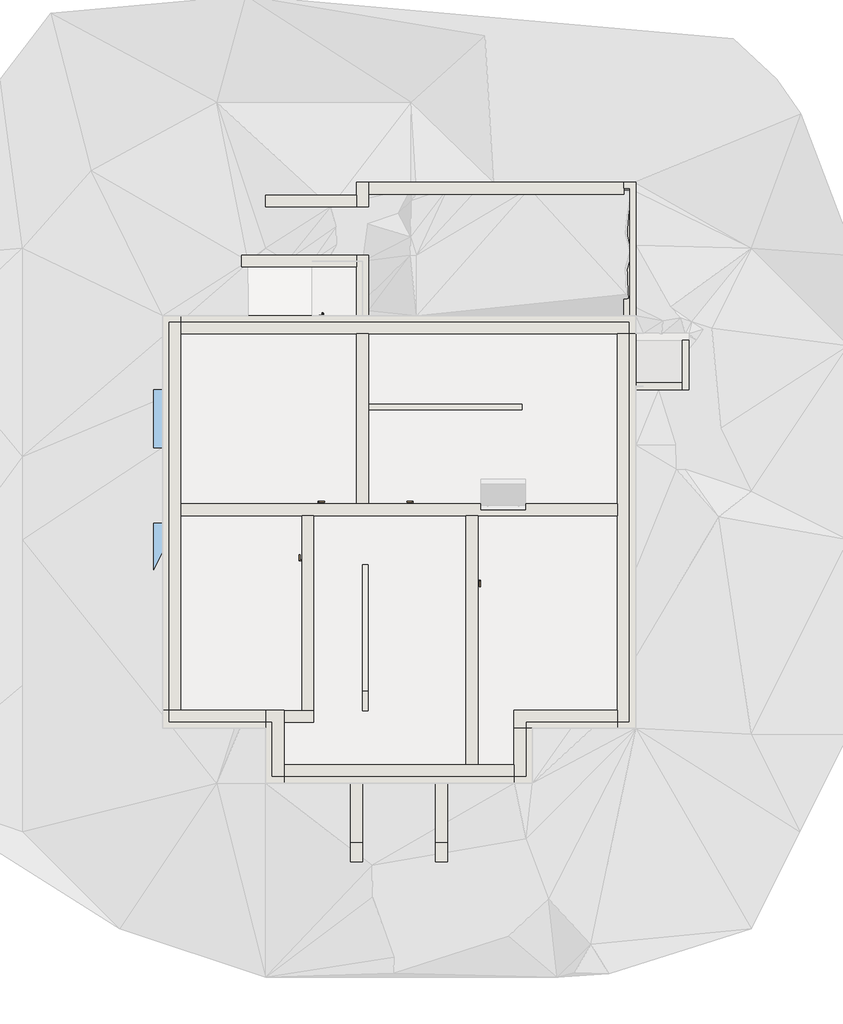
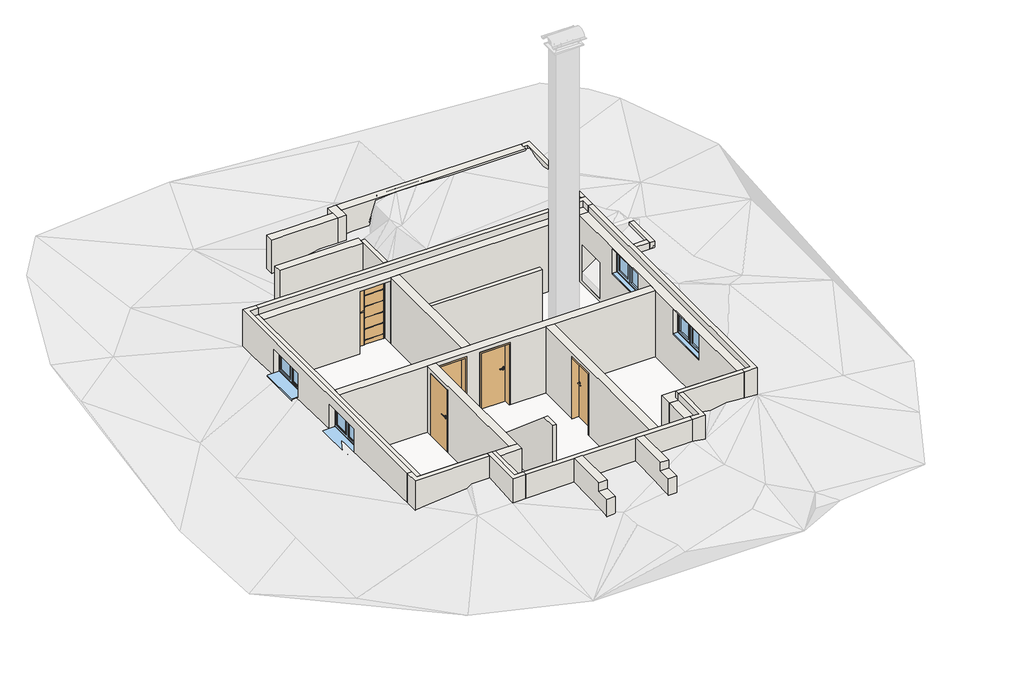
# Not in any storey, part 1 of 2: 25 walls, 5 doors, 4 windows.
"""IFC4 building model written with IfcOpenShell, lengths in millimetres."""

from ifc_helpers import new_model, si_unit, frame, origin, place, context, project, spatial, polyline, outline, extrude, faceted_brep, transform, mapped, element, save
from components import door_1b2f5746, door_21564633, ml_885_x_1885_5f7d4f0f, fe_2_tlg_konfigurierbar_1260_x_760_5a7c37b6

model = new_model("IFC4")

# Units and contexts
model_context = context("Model", 3, world=origin())
ifc_project = project(units=[si_unit("LENGTHUNIT", "METRE", prefix="MILLI")], contexts=[model_context])

# Site, building
site = spatial("IfcSite", under=ifc_project)
building = spatial("IfcBuilding", under=site)

# Doors
placement = place(None, origin())
door_shape = door_1b2f5746(model_context)
element("IfcDoor", 1, ObjectType="TU DF 1 - Rahmenstock flächenbündig variabel : ML - H - 885 x 1885", at=placement, inside=building, context=model_context, shape_type="MappedRepresentation", body=[
    mapped(door_shape, transform((2682.5, 5620.0, -1200.0), x_axis=(-1.0, 0.0, 0.0), y_axis=(0.0, -1.0, 0.0), z_axis=(0.0, 0.0, 1.0))),
])
door_2_shape = door_21564633(model_context)
element("IfcDoor", 2, ObjectType="TU DF 1 - Rahmenstock flächenbündig variabel : ML - H - 885 x 1885", at=placement, inside=building, context=model_context, shape_type="MappedRepresentation", body=[
    mapped(door_2_shape, transform((4245.0, 3817.5, -1200.0), x_axis=(0.0, -1.0, 0.0), y_axis=(1.0, 0.0, 0.0), z_axis=(0.0, 0.0, 1.0))),
])
element("IfcDoor", 3, ObjectType="TU DF 1 - Rahmenstock flächenbündig variabel : ML - H - 885 x 1885", at=placement, inside=building, context=model_context, shape_type="MappedRepresentation", body=[
    mapped(door_2_shape, transform((870.0, 4922.5, -1200.0), x_axis=(0.0, 1.0, 0.0), y_axis=(-1.0, 0.0, 0.0), z_axis=(0.0, 0.0, 1.0))),
])
element("IfcDoor", 4, ObjectType="TU DF 1 - Rahmenstock flächenbündig variabel : ML - H - 885 x 1885", at=placement, inside=building, context=model_context, shape_type="MappedRepresentation", body=[
    mapped(door_2_shape, transform((1432.5, 5620.0, -1200.0), x_axis=(1.0, 0.0, 0.0), y_axis=(0.0, 1.0, 0.0), z_axis=(0.0, 0.0, 1.0))),
])
ml_885_x_1885_shape = ml_885_x_1885_5f7d4f0f(model_context)
element("IfcDoor", 5, ObjectType="TU DF 1 - Haustüre : ML - 885 x 1885", at=placement, inside=building, context=model_context, shape_type="MappedRepresentation", body=[
    mapped(ml_885_x_1885_shape, transform((1432.5, 9427.5, -1200.0), x_axis=(-1.0, 0.0, 0.0), y_axis=(0.0, -1.0, 0.0), z_axis=(0.0, 0.0, 1.0))),
])

# Walls
element("IfcWall", 6, ObjectType="Klinker 365", at=placement, inside=building, context=model_context, shape_type="Brep", body=[
    faceted_brep([(375.0, 0.0, -1200.0), (375.0, 375.0, -1200.0), (375.0, 1250.0, -1200.0), (375.0, 1490.0, -1200.0), (375.0, 1500.0, -1200.0), (375.0, 1500.0, 800.0), (375.0, 1490.0, 800.0), (375.0, 1250.0, 800.0), (375.0, 375.0, 800.0), (375.0, 125.0, 800.0), (375.0, 125.0, 1000.0), (375.0, 0.0, 1000.0), (0.0, 1500.0, -1200.0), (0.0, 1125.0, -1200.0), (0.0, 0.0, -1200.0), (0.0, 0.0, 1000.0), (0.0, 1125.0, 1000.0), (0.0, 1250.0, 1000.0), (0.0, 1250.0, 800.0), (0.0, 1500.0, 800.0), (125.0, 125.0, 1000.0), (125.0, 1250.0, 1000.0), (125.0, 1250.0, 800.0), (125.0, 125.0, 800.0)], [[[0, 1, 2, 3, 4, 5, 6, 7, 8, 9, 10, 11]], [[12, 13, 14, 15, 16, 17, 18, 19]], [[4, 3, 2, 1, 0, 14, 13, 12]], [[15, 11, 10, 20, 21, 17, 16]], [[0, 11, 15, 14]], [[4, 12, 19, 5]], [[22, 23, 9, 8, 7, 6, 5, 19, 18]], [[23, 20, 10, 9]], [[23, 22, 21, 20]], [[21, 22, 18, 17]]]),
])
element("IfcWall", 7, ObjectType="Klinker 365", at=placement, inside=building, context=model_context, shape_type="Brep", body=[
    faceted_brep([(0.0, 1500.0, -1200.0), (-1750.0, 1500.0, -1200.0), (-2125.0, 1500.0, -1200.0), (-2125.0, 1500.0, 1000.0), (-2000.0, 1500.0, 1000.0), (-2000.0, 1500.0, 800.0), (-1750.0, 1500.0, 800.0), (0.0, 1500.0, 800.0), (-2125.0, 1125.0, -1200.0), (0.0, 1125.0, -1200.0), (0.0, 1125.0, 1000.0), (-2125.0, 1125.0, 1000.0), (0.0, 1250.0, 1000.0), (-2000.0, 1250.0, 1000.0), (0.0, 1250.0, 800.0), (-2000.0, 1250.0, 800.0)], [[[0, 1, 2, 3, 4, 5, 6, 7]], [[8, 9, 10, 11]], [[2, 1, 0, 9, 8]], [[11, 10, 12, 13, 4, 3]], [[3, 2, 8, 11]], [[9, 0, 7, 14, 12, 10]], [[5, 15, 14, 7, 6]], [[15, 13, 12, 14]], [[13, 15, 5, 4]]]),
])
element("IfcWall", 8, ObjectType="Klinker 365", at=placement, inside=building, context=model_context, shape_type="Brep", body=[
    faceted_brep([(-1750.0, 1500.0, -1200.0), (-1750.0, 5500.0, -1200.0), (-1750.0, 5740.0, -1200.0), (-1750.0, 9240.0, -1200.0), (-1750.0, 9615.0, -1200.0), (-1750.0, 9615.0, 1000.0), (-1750.0, 9490.0, 1000.0), (-1750.0, 9490.0, 800.0), (-1750.0, 5740.0, 800.0), (-1750.0, 5500.0, 800.0), (-1750.0, 1500.0, 800.0), (-1750.0, 4115.0, 760.0), (-1750.0, 5375.0, 760.0), (-1750.0, 5375.0, 0.0), (-1750.0, 4115.0, 0.0), (-1750.0, 6865.0, 760.0), (-1750.0, 8125.0, 760.0), (-1750.0, 8125.0, 0.0), (-1750.0, 6865.0, 0.0), (-2125.0, 9615.0, -1200.0), (-2125.0, 1500.0, -1200.0), (-2125.0, 1500.0, 1000.0), (-2125.0, 9615.0, 1000.0), (-2125.0, 5345.0, 15.0), (-2125.0, 5345.0, 730.0), (-2125.0, 4145.0, 730.0), (-2125.0, 4145.0, 15.0), (-2125.0, 8095.0, 15.0), (-2125.0, 8095.0, 730.0), (-2125.0, 6895.0, 730.0), (-2125.0, 6895.0, 15.0), (-2000.0, 1500.0, 1000.0), (-2000.0, 9490.0, 1000.0), (-2000.0, 1500.0, 800.0), (-1965.0, 4115.0, 760.0), (-1965.0, 5375.0, 760.0), (-1965.0, 4115.0, 0.0), (-1965.0, 5375.0, 0.0), (-1965.0, 5345.0, 730.0), (-1965.0, 5345.0, 20.0), (-1965.0, 4145.0, 20.0), (-1965.0, 4145.0, 730.0), (-2000.0, 9490.0, 800.0), (-1965.0, 8125.0, 760.0), (-1965.0, 6865.0, 760.0), (-1965.0, 6865.0, 0.0), (-1965.0, 8125.0, 0.0), (-1965.0, 8095.0, 730.0), (-1965.0, 8095.0, 20.0), (-1965.0, 6895.0, 20.0), (-1965.0, 6895.0, 730.0)], [[[0, 1, 2, 3, 4, 5, 6, 7, 8, 9, 10], [11, 12, 13, 14], [15, 16, 17, 18]], [[19, 20, 21, 22], [23, 24, 25, 26], [27, 28, 29, 30]], [[4, 3, 2, 1, 0, 20, 19]], [[22, 21, 31, 32, 6, 5]], [[21, 20, 0, 10, 33, 31]], [[5, 4, 19, 22]], [[34, 35, 12, 11]], [[36, 14, 13, 37]], [[34, 11, 14, 36]], [[12, 35, 37, 13]], [[35, 34, 36, 37], [38, 39, 40, 41]], [[39, 38, 24, 23]], [[40, 39, 23, 26]], [[41, 40, 26, 25]], [[38, 41, 25, 24]], [[42, 33, 10, 9, 8, 7]], [[32, 42, 7, 6]], [[42, 32, 31, 33]], [[43, 16, 15, 44]], [[45, 18, 17, 46]], [[44, 15, 18, 45]], [[16, 43, 46, 17]], [[43, 44, 45, 46], [47, 48, 49, 50]], [[48, 47, 28, 27]], [[49, 48, 27, 30]], [[50, 49, 30, 29]], [[47, 50, 29, 28]]]),
])
element("IfcWall", 9, ObjectType="Klinker 365", at=placement, inside=building, context=model_context, shape_type="Brep", body=[
    faceted_brep([(-1750.0, 9240.0, -1200.0), (990.0, 9240.0, -1200.0), (990.0, 9240.0, 685.0), (1875.0, 9240.0, 685.0), (1875.0, 9240.0, -1200.0), (2115.0, 9240.0, -1200.0), (7240.0, 9240.0, -1200.0), (7615.0, 9240.0, -1200.0), (7615.0, 9240.0, 1000.0), (7490.0, 9240.0, 1000.0), (7490.0, 9240.0, 800.0), (2115.0, 9240.0, 800.0), (1875.0, 9240.0, 800.0), (-1750.0, 9240.0, 800.0), (-1750.0, 9615.0, 1000.0), (7615.0, 9615.0, 1000.0), (7615.0, 9615.0, -1200.0), (1875.0, 9615.0, -1200.0), (1875.0, 9615.0, 685.0), (990.0, 9615.0, 685.0), (990.0, 9615.0, -1200.0), (-1750.0, 9615.0, -1200.0), (-1750.0, 9490.0, 1000.0), (7490.0, 9490.0, 1000.0), (-1750.0, 9490.0, 800.0), (7490.0, 9490.0, 800.0)], [[[0, 1, 2, 3, 4, 5, 6, 7, 8, 9, 10, 11, 12, 13]], [[14, 15, 16, 17, 18, 19, 20, 21]], [[0, 21, 20, 1]], [[16, 7, 6, 5, 4, 17]], [[15, 14, 22, 23, 9, 8]], [[14, 21, 0, 13, 24, 22]], [[10, 25, 24, 13, 12, 11]], [[25, 23, 22, 24]], [[23, 25, 10, 9]], [[18, 3, 2, 19]], [[19, 2, 1, 20]], [[3, 18, 17, 4]], [[7, 16, 15, 8]]]),
])
element("IfcWall", 10, ObjectType="Klinker 365", at=placement, inside=building, context=model_context, shape_type="Brep", body=[
    faceted_brep([(7240.0, 9240.0, -1200.0), (7240.0, 5740.0, -1200.0), (7240.0, 5500.0, -1200.0), (7240.0, 1500.0, -1200.0), (7240.0, 1125.0, -1200.0), (7240.0, 1125.0, 1000.0), (7240.0, 1250.0, 1000.0), (7240.0, 1250.0, 800.0), (7240.0, 1500.0, 800.0), (7240.0, 5500.0, 800.0), (7240.0, 5740.0, 800.0), (7240.0, 9240.0, 800.0), (7240.0, 4625.0, 760.0), (7240.0, 3365.0, 760.0), (7240.0, 3365.0, 0.0), (7240.0, 4625.0, 0.0), (7240.0, 7625.0, 760.0), (7240.0, 6365.0, 760.0), (7240.0, 6365.0, 0.0), (7240.0, 7625.0, 0.0), (7240.0, 9109.0, -1095.4701192), (7240.0, 9109.0, -850.0), (7240.0, 9109.0, -20.0), (7240.0, 8231.2341615, -20.0), (7240.0, 8231.2341615, -850.0), (7240.0, 8231.2341615, -1095.4701192), (7615.0, 1125.0, -1200.0), (7615.0, 9240.0, -1200.0), (7615.0, 9240.0, 1000.0), (7615.0, 1125.0, 1000.0), (7615.0, 3395.0, 15.0), (7615.0, 3395.0, 730.0), (7615.0, 4595.0, 730.0), (7615.0, 4595.0, 15.0), (7615.0, 6395.0, 15.0), (7615.0, 6395.0, 730.0), (7615.0, 7595.0, 730.0), (7615.0, 7595.0, 15.0), (7615.0, 9109.0, -20.0), (7615.0, 9109.0, -900.0), (7615.0, 8231.2341615, -900.0), (7615.0, 8231.2341615, -20.0), (7455.0, 4625.0, 760.0), (7455.0, 3365.0, 760.0), (7455.0, 4625.0, 0.0), (7455.0, 3365.0, 0.0), (7455.0, 3395.0, 730.0), (7455.0, 3395.0, 20.0), (7455.0, 4595.0, 20.0), (7455.0, 4595.0, 730.0), (7490.0, 1250.0, 800.0), (7490.0, 9240.0, 800.0), (7490.0, 1250.0, 1000.0), (7490.0, 9240.0, 1000.0), (7455.0, 6365.0, 760.0), (7455.0, 7625.0, 760.0), (7455.0, 7625.0, 0.0), (7455.0, 6365.0, 0.0), (7455.0, 6395.0, 730.0), (7455.0, 6395.0, 20.0), (7455.0, 7595.0, 20.0), (7455.0, 7595.0, 730.0), (7514.6869569, 9109.0, -900.0), (7514.6869569, 8231.2341615, -900.0)], [[[0, 1, 2, 3, 4, 5, 6, 7, 8, 9, 10, 11], [12, 13, 14, 15], [16, 17, 18, 19], [20, 21, 22, 23, 24, 25]], [[26, 27, 28, 29], [30, 31, 32, 33], [34, 35, 36, 37], [38, 39, 40, 41]], [[5, 4, 26, 29]], [[42, 43, 13, 12]], [[44, 15, 14, 45]], [[42, 12, 15, 44]], [[13, 43, 45, 14]], [[43, 42, 44, 45], [46, 47, 48, 49]], [[47, 46, 31, 30]], [[48, 47, 30, 33]], [[49, 48, 33, 32]], [[46, 49, 32, 31]], [[7, 50, 51, 11, 10, 9, 8]], [[50, 52, 53, 51]], [[52, 50, 7, 6]], [[54, 17, 16, 55]], [[56, 19, 18, 57]], [[55, 16, 19, 56]], [[17, 54, 57, 18]], [[54, 55, 56, 57], [58, 59, 60, 61]], [[59, 58, 35, 34]], [[60, 59, 34, 37]], [[61, 60, 37, 36]], [[58, 61, 36, 35]], [[4, 3, 2, 1, 0, 27, 26]], [[29, 28, 53, 52, 6, 5]], [[27, 0, 11, 51, 53, 28]], [[40, 39, 62, 63]], [[38, 22, 21, 20, 62, 39]], [[22, 38, 41, 23]], [[23, 41, 40, 63, 25, 24]], [[62, 20, 25, 63]]]),
])
element("IfcWall", 11, ObjectType="Klinker 365", at=placement, inside=building, context=model_context, shape_type="Brep", body=[
    faceted_brep([(7240.0, 1500.0, -1200.0), (5115.0, 1500.0, -1200.0), (5115.0, 1500.0, 800.0), (7240.0, 1500.0, 800.0), (5115.0, 1125.0, -1200.0), (5490.0, 1125.0, -1200.0), (7240.0, 1125.0, -1200.0), (7240.0, 1125.0, 1000.0), (5490.0, 1125.0, 1000.0), (5365.0, 1125.0, 1000.0), (5365.0, 1125.0, 800.0), (5115.0, 1125.0, 800.0), (7240.0, 1250.0, 1000.0), (5365.0, 1250.0, 1000.0), (7240.0, 1250.0, 800.0), (5365.0, 1250.0, 800.0)], [[[0, 1, 2, 3]], [[4, 5, 6, 7, 8, 9, 10, 11]], [[1, 0, 6, 5, 4]], [[9, 8, 7, 12, 13]], [[7, 6, 0, 3, 14, 12]], [[1, 4, 11, 2]], [[10, 15, 14, 3, 2, 11]], [[15, 13, 12, 14]], [[13, 15, 10, 9]]]),
])
element("IfcWall", 12, ObjectType="Klinker 365", at=placement, inside=building, context=model_context, shape_type="Brep", body=[
    faceted_brep([(5115.0, 1125.0, -1200.0), (5115.0, 375.0, -1200.0), (5115.0, 0.0, -1200.0), (5115.0, 0.0, 1000.0), (5115.0, 125.0, 1000.0), (5115.0, 125.0, 800.0), (5115.0, 375.0, 800.0), (5115.0, 1125.0, 800.0), (5490.0, 0.0, -1200.0), (5490.0, 1125.0, -1200.0), (5490.0, 1125.0, 1000.0), (5490.0, 0.0, 1000.0), (5365.0, 1125.0, 1000.0), (5365.0, 125.0, 1000.0), (5365.0, 1125.0, 800.0), (5365.0, 125.0, 800.0)], [[[0, 1, 2, 3, 4, 5, 6, 7]], [[8, 9, 10, 11]], [[2, 1, 0, 9, 8]], [[11, 10, 12, 13, 4, 3]], [[10, 9, 0, 7, 14, 12]], [[3, 2, 8, 11]], [[5, 15, 14, 7, 6]], [[15, 13, 12, 14]], [[13, 15, 5, 4]]]),
])
element("IfcWall", 13, ObjectType="Klinker 365", at=placement, inside=building, context=model_context, shape_type="SweptSolid", body=[
    extrude(outline(polyline([(375.0, -1200.0), (0.0, -1200.0), (0.0, 1000.0), (125.0, 1000.0), (125.0, 800.0), (375.0, 800.0), (375.0, -1200.0)])), frame((375.0, 0.0, 0.0), z_axis=(1.0, 0.0, 0.0), x_axis=(0.0, 1.0, 0.0)), (0.0, 0.0, 1.0), 4740.0),
])
element("IfcWall", 14, ObjectType="Klinker 240", at=placement, inside=building, context=model_context, shape_type="Brep", body=[
    faceted_brep([(7615.0, 9615.0, -1200.0), (7615.0, 12355.0, -1200.0), (7615.0, 12355.0, 1000.0), (7615.0, 9775.0, 1000.0), (7615.0, 9615.0, 1000.0), (7375.0, 12355.0, -1200.0), (7375.0, 12115.0, -1200.0), (7375.0, 9615.0, -1200.0), (7375.0, 9615.0, 800.0), (7375.0, 12235.0, 800.0), (7375.0, 12235.0, 1000.0), (7375.0, 12355.0, 1000.0), (7495.0, 12235.0, 1000.0), (7495.0, 9615.0, 1000.0), (7495.0, 9615.0, 800.0), (7495.0, 12235.0, 800.0)], [[[0, 1, 2, 3, 4]], [[5, 6, 7, 8, 9, 10, 11]], [[1, 0, 7, 6, 5]], [[4, 3, 2, 11, 10, 12, 13]], [[2, 1, 5, 11]], [[7, 0, 4, 13, 14, 8]], [[14, 15, 9, 8]], [[15, 12, 10, 9]], [[15, 14, 13, 12]]]),
])
element("IfcWall", 15, ObjectType="Klinker 240", at=placement, inside=building, context=model_context, shape_type="SweptSolid", body=[
    extrude(outline(polyline([(2115.0, 12355.0), (7375.0, 12355.0), (7375.0, 12115.0), (2115.0, 12115.0), (2115.0, 12355.0)])), frame((0.0, 0.0, -1200.0), z_axis=(0.0, 0.0, 1.0), x_axis=(1.0, 0.0, 0.0)), (0.0, 0.0, 1.0), 2200.0),
])
element("IfcWall", 16, ObjectType="Klinker 240", at=placement, inside=building, context=model_context, shape_type="Brep", body=[
    faceted_brep([(2115.0, 9615.0, -1200.0), (2115.0, 10855.0, -1200.0), (2115.0, 10855.0, 800.0), (2115.0, 9615.0, 800.0), (1875.0, 10855.0, -1200.0), (1875.0, 10615.0, -1200.0), (1875.0, 9615.0, -1200.0), (1875.0, 9615.0, 1000.0), (1875.0, 10615.0, 1000.0), (1875.0, 10735.0, 1000.0), (1875.0, 10735.0, 800.0), (1875.0, 10855.0, 800.0), (1995.0, 9615.0, 1000.0), (1995.0, 10735.0, 1000.0), (1995.0, 9615.0, 800.0), (1995.0, 10735.0, 800.0)], [[[0, 1, 2, 3]], [[4, 5, 6, 7, 8, 9, 10, 11]], [[1, 0, 6, 5, 4]], [[9, 8, 7, 12, 13]], [[7, 6, 0, 3, 14, 12]], [[1, 4, 11, 2]], [[15, 14, 3, 2, 11, 10]], [[14, 15, 13, 12]], [[13, 15, 10, 9]]]),
])
element("IfcWall", 17, ObjectType="Klinker 240", at=placement, inside=building, context=model_context, shape_type="Brep", body=[
    faceted_brep([(1875.0, 10855.0, -1200.0), (-500.0, 10855.0, -1200.0), (-500.0, 10855.0, 1000.0), (615.0, 10855.0, 1000.0), (1875.0, 10855.0, 1000.0), (1875.0, 10855.0, 800.0), (1875.0, 10615.0, -1200.0), (1875.0, 10615.0, 1000.0), (615.0, 10615.0, 1000.0), (-500.0, 10615.0, 1000.0), (-500.0, 10615.0, -1200.0), (1875.0, 10735.0, 1000.0)], [[[0, 1, 2, 3, 4, 5]], [[6, 7, 8, 9, 10]], [[1, 0, 6, 10]], [[2, 1, 10, 9]], [[4, 3, 2, 9, 8, 7, 11]], [[0, 5, 4, 11, 7, 6]]]),
])
element("IfcWall", 18, ObjectType="Klinker 240", at=placement, inside=building, context=model_context, shape_type="Brep", body=[
    faceted_brep([(1875.0, 12355.0, -1200.0), (1875.0, 12095.0, -1200.0), (1875.0, 11855.0, -1200.0), (1875.0, 11855.0, 1000.0), (1875.0, 12095.0, 1000.0), (1875.0, 12355.0, 1000.0), (2115.0, 12355.0, -1200.0), (2115.0, 12355.0, 1000.0), (2115.0, 12115.0, 1000.0), (2115.0, 11855.0, 1000.0), (2115.0, 11855.0, -1200.0), (2115.0, 12115.0, -1200.0)], [[[0, 1, 2, 3, 4, 5]], [[6, 7, 8, 9, 10, 11]], [[2, 1, 0, 6, 11, 10]], [[5, 4, 3, 9, 8, 7]], [[0, 5, 7, 6]], [[3, 2, 10, 9]]]),
])
element("IfcWall", 19, ObjectType="Klinker 240", at=placement, inside=building, context=model_context, shape_type="Brep", body=[
    faceted_brep([(1875.0, 12095.0, -1200.0), (-5.0, 12095.0, -1200.0), (-5.0, 12095.0, 1000.0), (615.0, 12095.0, 1000.0), (1875.0, 12095.0, 1000.0), (-5.0, 11855.0, -1200.0), (1875.0, 11855.0, -1200.0), (1875.0, 11855.0, 800.0), (1875.0, 11855.0, 1000.0), (1620.0, 11855.0, 1000.0), (615.0, 11855.0, 1000.0), (-5.0, 11855.0, 1000.0)], [[[0, 1, 2, 3, 4]], [[5, 6, 7, 8, 9, 10, 11]], [[0, 4, 8, 7, 6]], [[1, 0, 6, 5]], [[2, 1, 5, 11]], [[4, 3, 2, 11, 10, 9, 8]]]),
])
element("IfcWall", 20, ObjectType="Klinker 240", at=placement, inside=building, context=model_context, shape_type="SweptSolid", body=[
    extrude(outline(polyline([(0.0, -500.0), (-1620.0, -500.0), (-1620.0, 750.0), (-1220.0, 750.0), (-1220.0, 1000.0), (0.0, 1000.0), (0.0, -500.0)])), frame((1750.0, 0.0, 0.0), z_axis=(1.0, 0.0, 0.0), x_axis=(0.0, 1.0, 0.0)), (0.0, 0.0, 1.0), 240.0),
])
element("IfcWall", 21, ObjectType="Klinker 240", at=placement, inside=building, context=model_context, shape_type="SweptSolid", body=[
    extrude(outline(polyline([(0.0, -500.0), (-1620.0, -500.0), (-1620.0, 750.0), (-1220.0, 750.0), (-1220.0, 1000.0), (0.0, 1000.0), (0.0, -500.0)])), frame((3500.0, 0.0, 0.0), z_axis=(1.0, 0.0, 0.0), x_axis=(0.0, 1.0, 0.0)), (0.0, 0.0, 1.0), 240.0),
])
element("IfcWall", 22, ObjectType="Klinker 140", at=placement, inside=building, context=model_context, shape_type="Brep", body=[
    faceted_brep([(8575.0, 9110.0, -1200.0), (8575.0, 8231.2341615, -1200.0), (8575.0, 8091.2341615, -1200.0), (8575.0, 8091.2341615, 200.0), (8575.0, 8231.2341615, 200.0), (8575.0, 9110.0, 200.0), (8715.0, 9110.0, -1200.0), (8715.0, 9110.0, 200.0), (8715.0, 8091.2341615, 200.0), (8715.0, 8091.2341615, -1200.0)], [[[0, 1, 2, 3, 4, 5]], [[6, 7, 8, 9]], [[2, 1, 0, 6, 9]], [[5, 4, 3, 8, 7]], [[0, 5, 7, 6]], [[3, 2, 9, 8]]]),
])
element("IfcWall", 23, ObjectType="Klinker 140", at=placement, inside=building, context=model_context, shape_type="SweptSolid", body=[
    extrude(outline(polyline([(7615.0, 8231.2341615), (8575.0, 8231.2341615), (8575.0, 8091.2341615), (7615.0, 8091.2341615), (7615.0, 8231.2341615)])), frame((0.0, 0.0, -1200.0), z_axis=(0.0, 0.0, 1.0), x_axis=(1.0, 0.0, 0.0)), (0.0, 0.0, 1.0), 1400.0),
])
element("IfcWall", 24, ObjectType="Ziegel 115", at=placement, inside=building, context=model_context, shape_type="SweptSolid", body=[
    extrude(outline(polyline([(4490.0, -1200.0), (1490.0, -1200.0), (1490.0, 1000.0), (1901.7647059, 1000.0), (4490.0, -1200.0)])), frame((1990.0, 0.0, 0.0), z_axis=(1.0, 0.0, 0.0), x_axis=(0.0, 1.0, 0.0)), (0.0, 0.0, 1.0), 115.0),
])
element("IfcWall", 25, ObjectType="Ziegel 115", at=placement, inside=building, context=model_context, shape_type="SweptSolid", body=[
    extrude(outline(polyline([(5275.0, 7676.2341615), (2115.0, 7676.2341615), (2115.0, 7791.2341615), (5275.0, 7791.2341615), (5275.0, 7676.2341615)])), frame((0.0, 0.0, -1200.0), z_axis=(0.0, 0.0, 1.0), x_axis=(1.0, 0.0, 0.0)), (0.0, 0.0, 1.0), 2000.0),
])
element("IfcWall", 26, ObjectType="Ziegel 240", at=placement, inside=building, context=model_context, shape_type="Brep", body=[
    faceted_brep([(-1750.0, 5500.0, 800.0), (-1750.0, 5500.0, -1200.0), (750.0, 5500.0, -1200.0), (990.0, 5500.0, -1200.0), (990.0, 5500.0, 685.0), (1875.0, 5500.0, 685.0), (1875.0, 5500.0, -1200.0), (2240.0, 5500.0, -1200.0), (2240.0, 5500.0, 685.0), (3125.0, 5500.0, 685.0), (3125.0, 5500.0, -1200.0), (7240.0, 5500.0, -1200.0), (7240.0, 5500.0, 800.0), (990.0, 5500.0, 800.0), (750.0, 5500.0, 800.0), (-1750.0, 5740.0, -1200.0), (-1750.0, 5740.0, 800.0), (1875.0, 5740.0, 800.0), (2115.0, 5740.0, 800.0), (7240.0, 5740.0, 800.0), (7240.0, 5740.0, -1200.0), (3125.0, 5740.0, -1200.0), (3125.0, 5740.0, 685.0), (2240.0, 5740.0, 685.0), (2240.0, 5740.0, -1200.0), (2115.0, 5740.0, -1200.0), (1875.0, 5740.0, -1200.0), (1875.0, 5740.0, 685.0), (990.0, 5740.0, 685.0), (990.0, 5740.0, -1200.0)], [[[0, 1, 2, 3, 4, 5, 6, 7, 8, 9, 10, 11, 12, 13, 14]], [[15, 16, 17, 18, 19, 20, 21, 22, 23, 24, 25, 26, 27, 28, 29]], [[1, 15, 29, 3, 2]], [[20, 11, 10, 21]], [[24, 7, 6, 26, 25]], [[1, 0, 16, 15]], [[12, 11, 20, 19]], [[8, 7, 24, 23]], [[10, 9, 22, 21]], [[9, 8, 23, 22]], [[0, 14, 13, 12, 19, 18, 17, 16]], [[5, 27, 26, 6]], [[28, 4, 3, 29]], [[27, 5, 4, 28]]]),
])
element("IfcWall", 27, ObjectType="Ziegel 240", at=placement, inside=building, context=model_context, shape_type="Brep", body=[
    faceted_brep([(375.0, 1250.0, -1200.0), (990.0, 1250.0, -1200.0), (990.0, 1250.0, 800.0), (375.0, 1250.0, 800.0), (375.0, 1490.0, -1200.0), (375.0, 1490.0, 800.0), (750.0, 1490.0, 800.0), (990.0, 1490.0, 800.0), (990.0, 1490.0, -1200.0), (750.0, 1490.0, -1200.0)], [[[0, 1, 2, 3]], [[4, 5, 6, 7, 8, 9]], [[1, 0, 4, 9, 8]], [[0, 3, 5, 4]], [[3, 2, 7, 6, 5]], [[2, 1, 8, 7]]]),
])
element("IfcWall", 28, ObjectType="Ziegel 240", at=placement, inside=building, context=model_context, shape_type="Brep", body=[
    faceted_brep([(990.0, 5500.0, -1200.0), (990.0, 5500.0, 685.0), (990.0, 5500.0, 800.0), (990.0, 4490.0, 800.0), (990.0, 1490.0, 800.0), (990.0, 1490.0, -1200.0), (990.0, 4480.0, -1200.0), (990.0, 4480.0, 685.0), (990.0, 5365.0, 685.0), (990.0, 5365.0, -1200.0), (750.0, 1490.0, 800.0), (750.0, 5500.0, 800.0), (750.0, 5500.0, -1200.0), (750.0, 5365.0, -1200.0), (750.0, 5365.0, 685.0), (750.0, 4480.0, 685.0), (750.0, 4480.0, -1200.0), (750.0, 1490.0, -1200.0)], [[[0, 1, 2, 3, 4, 5, 6, 7, 8, 9]], [[10, 11, 12, 13, 14, 15, 16, 17]], [[12, 0, 9, 13]], [[5, 17, 16, 6]], [[2, 1, 0, 12, 11]], [[8, 14, 13, 9]], [[15, 7, 6, 16]], [[14, 8, 7, 15]], [[11, 10, 4, 3, 2]], [[5, 4, 10, 17]]]),
])
element("IfcWall", 29, ObjectType="Ziegel 240", at=placement, inside=building, context=model_context, shape_type="SweptSolid", body=[
    extrude(outline(polyline([(5500.0, 800.0), (5500.0, -1200.0), (4260.0, -1200.0), (4260.0, 685.0), (3375.0, 685.0), (3375.0, -1200.0), (375.0, -1200.0), (375.0, 800.0), (5500.0, 800.0)])), frame((4125.0, 0.0, 0.0), z_axis=(1.0, 0.0, 0.0), x_axis=(0.0, 1.0, 0.0)), (0.0, 0.0, 1.0), 240.0),
])
element("IfcWall", 30, ObjectType="Ziegel 240", at=placement, inside=building, context=model_context, shape_type="Brep", body=[
    faceted_brep([(1875.0, 9240.0, -1200.0), (1875.0, 5740.0, -1200.0), (1875.0, 5740.0, 685.0), (1875.0, 5740.0, 800.0), (1875.0, 9240.0, 800.0), (1875.0, 9240.0, 685.0), (2115.0, 9240.0, -1200.0), (2115.0, 9240.0, 800.0), (2115.0, 5740.0, 800.0), (2115.0, 5740.0, -1200.0)], [[[0, 1, 2, 3, 4, 5]], [[6, 7, 8, 9]], [[1, 0, 6, 9]], [[0, 5, 4, 7, 6]], [[3, 2, 1, 9, 8]], [[4, 3, 8, 7]]]),
])

# Windows
fe_2_tlg_konfigurierbar_1260_x_760_shape = fe_2_tlg_konfigurierbar_1260_x_760_5a7c37b6(model_context)
element("IfcWindow", 31, ObjectType="FE 2 tlg - konfigurierbar : 1260 x 760", at=placement, inside=building, context=model_context, shape_type="MappedRepresentation", body=[
    mapped(fe_2_tlg_konfigurierbar_1260_x_760_shape, transform((-1937.5, 4745.0, -850.0), x_axis=(0.0, 1.0, 0.0), y_axis=(-1.0, 0.0, 0.0), z_axis=(0.0, 0.0, 1.0))),
])
element("IfcWindow", 32, ObjectType="FE 2 tlg - konfigurierbar : 1260 x 760", at=placement, inside=building, context=model_context, shape_type="MappedRepresentation", body=[
    mapped(fe_2_tlg_konfigurierbar_1260_x_760_shape, transform((7427.5, 3995.0, -850.0), x_axis=(0.0, -1.0, 0.0), y_axis=(1.0, 0.0, 0.0), z_axis=(0.0, 0.0, 1.0))),
])
element("IfcWindow", 33, ObjectType="FE 2 tlg - konfigurierbar : 1260 x 760", at=placement, inside=building, context=model_context, shape_type="MappedRepresentation", body=[
    mapped(fe_2_tlg_konfigurierbar_1260_x_760_shape, transform((7427.5, 6995.0, -850.0), x_axis=(0.0, -1.0, 0.0), y_axis=(1.0, 0.0, 0.0), z_axis=(0.0, 0.0, 1.0))),
])
element("IfcWindow", 34, ObjectType="FE 2 tlg - konfigurierbar : 1260 x 760", at=placement, inside=building, context=model_context, shape_type="MappedRepresentation", body=[
    mapped(fe_2_tlg_konfigurierbar_1260_x_760_shape, transform((-1937.5, 7495.0, -850.0), x_axis=(0.0, 1.0, 0.0), y_axis=(-1.0, 0.0, 0.0), z_axis=(0.0, 0.0, 1.0))),
])

save(model, "model.ifc")
